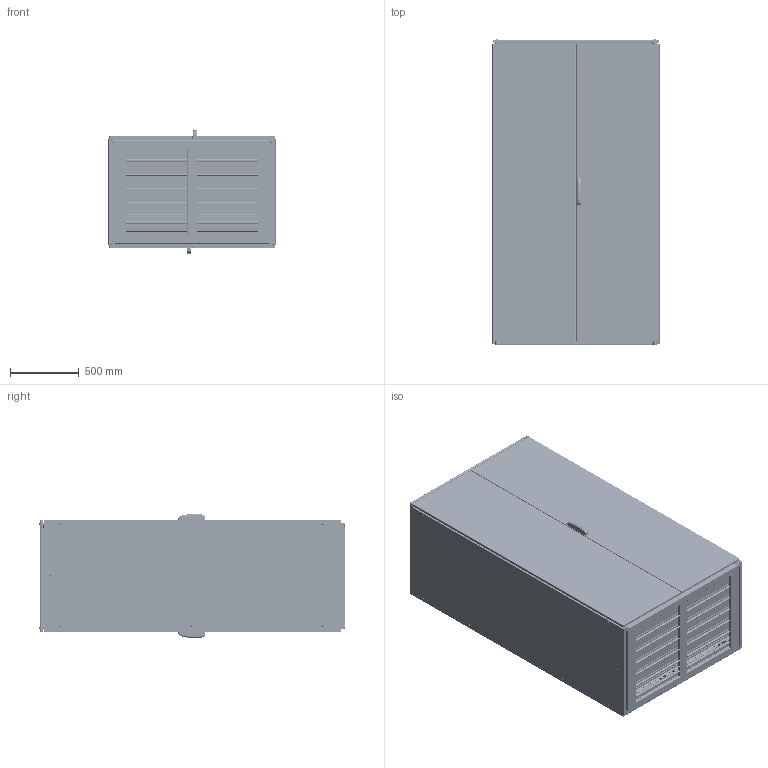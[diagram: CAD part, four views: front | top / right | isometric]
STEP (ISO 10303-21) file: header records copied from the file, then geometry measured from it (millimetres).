
FILE_DESCRIPTION (( 'STEP AP203' ), '1' );
FILE_NAME ('ENUX122208DP.STEP', '2025-06-03T06:53:37', ( '' ), ( '' ), 'SwSTEP 2.0', 'SolidWorks 2022', '' );
FILE_SCHEMA (( 'CONFIG_CONTROL_DESIGN' ));
Length unit declared in the file: millimetre
Products named in the file (15): AR_ENUX_Porta_IB_2.0_1200x2200_POST; AR_ENUX_Porta_IB_2.0_1200x2200_ANT; AR_ENUX_Struttura_1200x2200x0800; AR_ENUX_nuova_maniglia_mesan; AR_ENUX_montaggio_porta_IB_2.0_1200x2200_POST_DX; AR_ENUX_Tetto_1200x0800; AR_ENUX_Fianco_0800x2200_DX; AR_ENUX_Fianco_0800x2200_SX; AR_ENUX_montaggio_porta_IB_2.0_1200x2200_ANT_DX; AR_ENUX_Tegolino_1200x0100; AR_ENUX_Porta_CB_2.0_1200x2200_POST_DX; AR_ENUX_Vite_tetto; AR_ENUX_Tegolino_1200x0050; AR_ENUX_Porta_CB_2.0_1200x2200_ANT_DX; ENUX122208DP
Assembly tree (30 placements, depth 3):
  ENUX122208DP
    AR_ENUX_Struttura_1200x2200x0800
    AR_ENUX_Fianco_0800x2200_SX
    AR_ENUX_Fianco_0800x2200_DX
    AR_ENUX_Tetto_1200x0800
    AR_ENUX_Vite_tetto  x4
    AR_ENUX_Tegolino_1200x0050  x4
    AR_ENUX_Tegolino_1200x0100  x10
    AR_ENUX_montaggio_porta_IB_2.0_1200x2200_ANT_DX
      AR_ENUX_Porta_IB_2.0_1200x2200_ANT
      AR_ENUX_nuova_maniglia_mesan
    AR_ENUX_Porta_CB_2.0_1200x2200_ANT_DX
    AR_ENUX_montaggio_porta_IB_2.0_1200x2200_POST_DX
      AR_ENUX_Porta_IB_2.0_1200x2200_POST
      AR_ENUX_nuova_maniglia_mesan
    AR_ENUX_Porta_CB_2.0_1200x2200_POST_DX
Bounding box: 1212 x 2215.1 x 900 mm (x, y, z)
Volume: 25851036.3 mm3; surface area: 32568584.6 mm2
Topology: 28 solids, 29 shells, 13790 faces, 39063 edges, 25274 vertices
Faces by surface type: plane 7387, cylinder 5460, bspline 398, torus 267, cone 200, sphere 78
Entity records: 473560 total; most frequent: CARTESIAN_POINT 115845, ORIENTED_EDGE 73824, DIRECTION 71795, EDGE_CURVE 36912, VECTOR 24881, LINE 24881, VERTEX_POINT 24182, AXIS2_PLACEMENT_3D 23457
